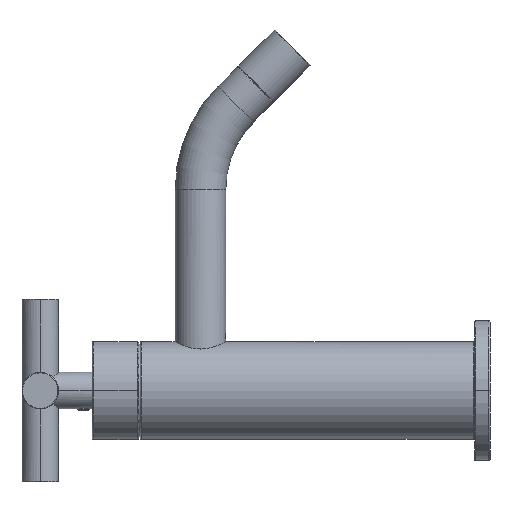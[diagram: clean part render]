
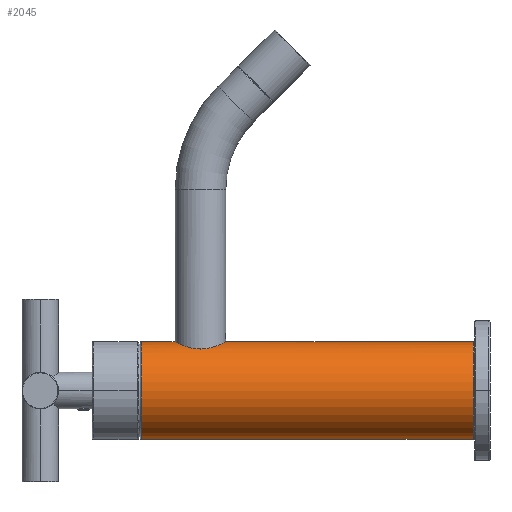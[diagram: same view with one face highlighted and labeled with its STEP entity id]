
A CAD part, left-side view. The second image highlights one B-rep face of the part: STEP entity #2045.
In plain terms, the highlighted cylindrical face has radius 17.35 mm (diameter 34.7 mm), a partial arc.
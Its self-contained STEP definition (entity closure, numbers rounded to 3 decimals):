
#9=CARTESIAN_POINT('',(0.,118.5,0.));
#10=DIRECTION('',(0.,-1.,0.));
#11=DIRECTION('',(0.,0.,1.));
#12=AXIS2_PLACEMENT_3D('',#9,#10,#11);
#14=DIRECTION('',(0.,-1.,0.));
#15=VECTOR('',#14,11.95);
#16=CARTESIAN_POINT('',(0.,118.5,17.35));
#17=LINE('',#16,#15);
#18=CARTESIAN_POINT('',(0.,88.45,17.35));
#19=CARTESIAN_POINT('',(-0.121,88.45,17.35));
#20=CARTESIAN_POINT('',(-0.362,88.455,17.347));
#21=CARTESIAN_POINT('',(-0.724,88.477,17.336));
#22=CARTESIAN_POINT('',(-1.086,88.513,17.317));
#23=CARTESIAN_POINT('',(-1.447,88.564,17.291));
#24=CARTESIAN_POINT('',(-1.807,88.63,17.257));
#25=CARTESIAN_POINT('',(-2.166,88.71,17.216));
#26=CARTESIAN_POINT('',(-2.524,88.806,17.167));
#27=CARTESIAN_POINT('',(-2.88,88.918,17.111));
#28=CARTESIAN_POINT('',(-3.233,89.044,17.047));
#29=CARTESIAN_POINT('',(-3.584,89.187,16.977));
#30=CARTESIAN_POINT('',(-3.931,89.346,16.9));
#31=CARTESIAN_POINT('',(-4.275,89.52,16.816));
#32=CARTESIAN_POINT('',(-4.613,89.711,16.727));
#33=CARTESIAN_POINT('',(-4.946,89.918,16.631));
#34=CARTESIAN_POINT('',(-5.272,90.14,16.531));
#35=CARTESIAN_POINT('',(-5.59,90.379,16.426));
#36=CARTESIAN_POINT('',(-5.899,90.633,16.317));
#37=CARTESIAN_POINT('',(-6.198,90.901,16.206));
#38=CARTESIAN_POINT('',(-6.486,91.184,16.093));
#39=CARTESIAN_POINT('',(-6.76,91.479,15.98));
#40=CARTESIAN_POINT('',(-7.022,91.786,15.866));
#41=CARTESIAN_POINT('',(-7.269,92.103,15.755));
#42=CARTESIAN_POINT('',(-7.5,92.43,15.646));
#43=CARTESIAN_POINT('',(-7.715,92.764,15.541));
#44=CARTESIAN_POINT('',(-7.914,93.104,15.441));
#45=CARTESIAN_POINT('',(-8.095,93.448,15.346));
#46=CARTESIAN_POINT('',(-8.261,93.797,15.258));
#47=CARTESIAN_POINT('',(-8.409,94.147,15.176));
#48=CARTESIAN_POINT('',(-8.541,94.5,15.102));
#49=CARTESIAN_POINT('',(-8.657,94.853,15.036));
#50=CARTESIAN_POINT('',(-8.757,95.207,14.978));
#51=CARTESIAN_POINT('',(-8.842,95.56,14.928));
#52=CARTESIAN_POINT('',(-8.912,95.914,14.886));
#53=CARTESIAN_POINT('',(-8.968,96.267,14.853));
#54=CARTESIAN_POINT('',(-9.009,96.62,14.827));
#55=CARTESIAN_POINT('',(-9.037,96.972,14.811));
#56=CARTESIAN_POINT('',(-9.051,97.324,14.802));
#57=CARTESIAN_POINT('',(-9.051,97.676,14.802));
#58=CARTESIAN_POINT('',(-9.037,98.028,14.811));
#59=CARTESIAN_POINT('',(-9.009,98.38,14.827));
#60=CARTESIAN_POINT('',(-8.968,98.733,14.853));
#61=CARTESIAN_POINT('',(-8.912,99.086,14.886));
#62=CARTESIAN_POINT('',(-8.842,99.44,14.928));
#63=CARTESIAN_POINT('',(-8.757,99.793,14.978));
#64=CARTESIAN_POINT('',(-8.657,100.147,15.036));
#65=CARTESIAN_POINT('',(-8.541,100.5,15.102));
#66=CARTESIAN_POINT('',(-8.409,100.853,15.176));
#67=CARTESIAN_POINT('',(-8.26,101.203,15.258));
#68=CARTESIAN_POINT('',(-8.095,101.552,15.346));
#69=CARTESIAN_POINT('',(-7.914,101.896,15.441));
#70=CARTESIAN_POINT('',(-7.715,102.236,15.541));
#71=CARTESIAN_POINT('',(-7.5,102.57,15.646));
#72=CARTESIAN_POINT('',(-7.269,102.897,15.755));
#73=CARTESIAN_POINT('',(-7.022,103.214,15.866));
#74=CARTESIAN_POINT('',(-6.76,103.521,15.98));
#75=CARTESIAN_POINT('',(-6.486,103.816,16.093));
#76=CARTESIAN_POINT('',(-6.198,104.099,16.206));
#77=CARTESIAN_POINT('',(-5.899,104.367,16.317));
#78=CARTESIAN_POINT('',(-5.59,104.621,16.426));
#79=CARTESIAN_POINT('',(-5.272,104.86,16.531));
#80=CARTESIAN_POINT('',(-4.946,105.082,16.631));
#81=CARTESIAN_POINT('',(-4.613,105.289,16.727));
#82=CARTESIAN_POINT('',(-4.275,105.48,16.816));
#83=CARTESIAN_POINT('',(-3.931,105.654,16.9));
#84=CARTESIAN_POINT('',(-3.584,105.813,16.977));
#85=CARTESIAN_POINT('',(-3.233,105.956,17.047));
#86=CARTESIAN_POINT('',(-2.88,106.082,17.111));
#87=CARTESIAN_POINT('',(-2.524,106.194,17.167));
#88=CARTESIAN_POINT('',(-2.166,106.29,17.216));
#89=CARTESIAN_POINT('',(-1.807,106.37,17.257));
#90=CARTESIAN_POINT('',(-1.447,106.436,17.291));
#91=CARTESIAN_POINT('',(-1.086,106.487,17.317));
#92=CARTESIAN_POINT('',(-0.724,106.523,17.336));
#93=CARTESIAN_POINT('',(-0.362,106.545,17.347));
#94=CARTESIAN_POINT('',(-0.121,106.55,17.35));
#95=CARTESIAN_POINT('',(0.,106.55,17.35));
#97=DIRECTION('',(0.,-1.,0.));
#98=VECTOR('',#97,87.95);
#99=CARTESIAN_POINT('',(0.,88.45,17.35));
#100=LINE('',#99,#98);
#101=CARTESIAN_POINT('',(0.,0.5,0.));
#102=DIRECTION('',(0.,-1.,0.));
#103=DIRECTION('',(0.,0.,1.));
#104=AXIS2_PLACEMENT_3D('',#101,#102,#103);
#106=DIRECTION('',(0.,-1.,0.));
#107=VECTOR('',#106,118.);
#108=CARTESIAN_POINT('',(0.,118.5,-17.35));
#109=LINE('',#108,#107);
#1843=CARTESIAN_POINT('',(0.,88.45,17.35));
#1844=VERTEX_POINT('',#1843);
#1845=CARTESIAN_POINT('',(0.,106.55,17.35));
#1846=VERTEX_POINT('',#1845);
#1847=CARTESIAN_POINT('',(0.,118.5,17.35));
#1848=CARTESIAN_POINT('',(0.,118.5,-17.35));
#1849=VERTEX_POINT('',#1847);
#1850=VERTEX_POINT('',#1848);
#1855=CARTESIAN_POINT('',(0.,0.5,17.35));
#1856=CARTESIAN_POINT('',(0.,0.5,-17.35));
#1857=VERTEX_POINT('',#1855);
#1858=VERTEX_POINT('',#1856);
#2027=CARTESIAN_POINT('',(0.,-5.95,0.));
#2028=DIRECTION('',(0.,1.,0.));
#2029=DIRECTION('',(0.,0.,-1.));
#2030=AXIS2_PLACEMENT_3D('',#2027,#2028,#2029);
#2031=CYLINDRICAL_SURFACE('',#2030,17.35);
#2033=ORIENTED_EDGE('',*,*,#2032,.F.);
#2035=ORIENTED_EDGE('',*,*,#2034,.T.);
#2036=ORIENTED_EDGE('',*,*,#2019,.F.);
#2038=ORIENTED_EDGE('',*,*,#2037,.T.);
#2040=ORIENTED_EDGE('',*,*,#2039,.T.);
#2042=ORIENTED_EDGE('',*,*,#2041,.F.);
#2043=EDGE_LOOP('',(#2033,#2035,#2036,#2038,#2040,#2042));
#2044=FACE_OUTER_BOUND('',#2043,.F.);
#2045=ADVANCED_FACE('',(#2044),#2031,.T.);
#13=CIRCLE('',#12,17.35);
#96=B_SPLINE_CURVE_WITH_KNOTS('',3,(#18,#19,#20,#21,#22,#23,#24,#25,#26,#27,#28,
#29,#30,#31,#32,#33,#34,#35,#36,#37,#38,#39,#40,#41,#42,#43,#44,#45,#46,#47,#48,
#49,#50,#51,#52,#53,#54,#55,#56,#57,#58,#59,#60,#61,#62,#63,#64,#65,#66,#67,#68,
#69,#70,#71,#72,#73,#74,#75,#76,#77,#78,#79,#80,#81,#82,#83,#84,#85,#86,#87,#88,
#89,#90,#91,#92,#93,#94,#95),.UNSPECIFIED.,.F.,.F.,(4,1,1,1,1,1,1,1,1,1,1,1,1,1,
1,1,1,1,1,1,1,1,1,1,1,1,1,1,1,1,1,1,1,1,1,1,1,1,1,1,1,1,1,1,1,1,1,1,1,1,1,1,1,1,
1,1,1,1,1,1,1,1,1,1,1,1,1,1,1,1,1,1,1,1,1,4),(0.,0.013,
0.027,0.04,0.053,0.067,0.08,
0.093,0.107,0.12,0.133,0.147,
0.16,0.173,0.187,0.2,0.213,
0.227,0.24,0.253,0.267,0.28,
0.293,0.307,0.32,0.333,0.347,
0.36,0.373,0.387,0.4,0.413,
0.427,0.44,0.453,0.467,0.48,
0.493,0.507,0.52,0.533,0.547,
0.56,0.573,0.587,0.6,0.613,
0.627,0.64,0.653,0.667,0.68,
0.693,0.707,0.72,0.733,0.747,
0.76,0.773,0.787,0.8,0.813,
0.827,0.84,0.853,0.867,0.88,
0.893,0.907,0.92,0.933,0.947,
0.96,0.973,0.987,1.),.UNSPECIFIED.);
#105=CIRCLE('',#104,17.35);
#2019=EDGE_CURVE('',#1844,#1846,#96,.T.);
#2032=EDGE_CURVE('',#1849,#1850,#13,.T.);
#2034=EDGE_CURVE('',#1849,#1846,#17,.T.);
#2037=EDGE_CURVE('',#1844,#1857,#100,.T.);
#2039=EDGE_CURVE('',#1857,#1858,#105,.T.);
#2041=EDGE_CURVE('',#1850,#1858,#109,.T.);
